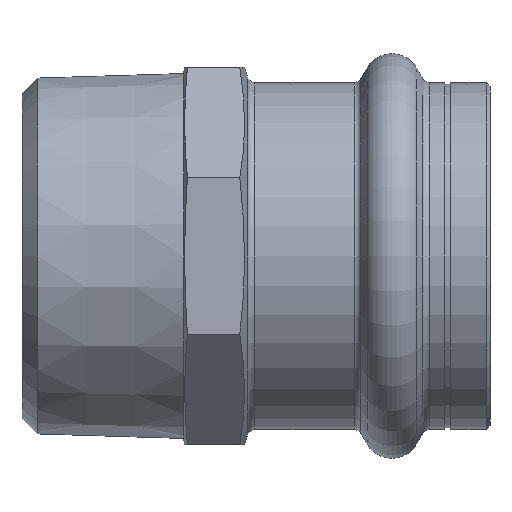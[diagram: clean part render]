
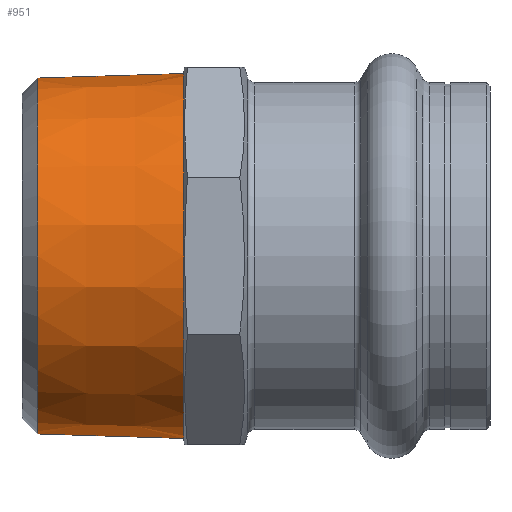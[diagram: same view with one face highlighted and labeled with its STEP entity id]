
A CAD part, left-side view. The second image highlights one B-rep face of the part: STEP entity #951.
In plain terms, the highlighted conical face has half-angle 1.78 degrees and reference radius 24.172 mm.
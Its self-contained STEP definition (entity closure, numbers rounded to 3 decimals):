
#69 = EDGE_CURVE ( 'NONE', #916, #73, #1564, .T. ) ;
#73 = VERTEX_POINT ( 'NONE', #731 ) ;
#141 = VERTEX_POINT ( 'NONE', #1489 ) ;
#177 = AXIS2_PLACEMENT_3D ( 'NONE', #559, #1437, #415 ) ;
#290 = CARTESIAN_POINT ( 'NONE',  ( 0., 40.6, 24.172 ) ) ;
#383 = ORIENTED_EDGE ( 'NONE', *, *, #1365, .F. ) ;
#404 = CARTESIAN_POINT ( 'NONE',  ( 0., 40.6, -24.172 ) ) ;
#415 = DIRECTION ( 'NONE',  ( 0., 0., -1. ) ) ;
#423 = AXIS2_PLACEMENT_3D ( 'NONE', #942, #790, #645 ) ;
#529 = DIRECTION ( 'NONE',  ( 0., 0., -1. ) ) ;
#547 = ORIENTED_EDGE ( 'NONE', *, *, #1246, .T. ) ;
#559 = CARTESIAN_POINT ( 'NONE',  ( 0., 59.929, 0. ) ) ;
#598 = FACE_OUTER_BOUND ( 'NONE', #885, .T. ) ;
#637 = CARTESIAN_POINT ( 'NONE',  ( 0., 59.929, 23.571 ) ) ;
#645 = DIRECTION ( 'NONE',  ( 0., 0., -1. ) ) ;
#669 = CARTESIAN_POINT ( 'NONE',  ( 0., 40.6, 0. ) ) ;
#731 = CARTESIAN_POINT ( 'NONE',  ( 0., 40.6, 24.172 ) ) ;
#762 = EDGE_CURVE ( 'NONE', #141, #1295, #1560, .T. ) ;
#790 = DIRECTION ( 'NONE',  ( 0., -1., 0. ) ) ;
#814 = ORIENTED_EDGE ( 'NONE', *, *, #762, .T. ) ;
#885 = EDGE_LOOP ( 'NONE', ( #1654, #547, #814, #383 ) ) ;
#890 = CONICAL_SURFACE ( 'NONE', #423, 24.172, 0.031 ) ;
#916 = VERTEX_POINT ( 'NONE', #637 ) ;
#942 = CARTESIAN_POINT ( 'NONE',  ( 0., 40.6, 0. ) ) ;
#951 = ADVANCED_FACE ( 'NONE', ( #598 ), #890, .T. ) ;
#1034 = AXIS2_PLACEMENT_3D ( 'NONE', #669, #1552, #529 ) ;
#1162 = VECTOR ( 'NONE', #1765, 1000. ) ;
#1166 = VECTOR ( 'NONE', #1626, 1000. ) ;
#1246 = EDGE_CURVE ( 'NONE', #916, #141, #1648, .T. ) ;
#1295 = VERTEX_POINT ( 'NONE', #404 ) ;
#1365 = EDGE_CURVE ( 'NONE', #73, #1295, #1509, .T. ) ;
#1437 = DIRECTION ( 'NONE',  ( 0., -1., 0. ) ) ;
#1489 = CARTESIAN_POINT ( 'NONE',  ( 0., 59.929, -23.571 ) ) ;
#1509 = CIRCLE ( 'NONE', #1034, 24.172 ) ;
#1552 = DIRECTION ( 'NONE',  ( 0., -1., 0. ) ) ;
#1560 = LINE ( 'NONE', #1623, #1162 ) ;
#1564 = LINE ( 'NONE', #290, #1166 ) ;
#1623 = CARTESIAN_POINT ( 'NONE',  ( 0., 40.6, -24.172 ) ) ;
#1626 = DIRECTION ( 'NONE',  ( 0., -1., 0.031 ) ) ;
#1648 = CIRCLE ( 'NONE', #177, 23.571 ) ;
#1654 = ORIENTED_EDGE ( 'NONE', *, *, #69, .F. ) ;
#1765 = DIRECTION ( 'NONE',  ( 0., -1., -0.031 ) ) ;
